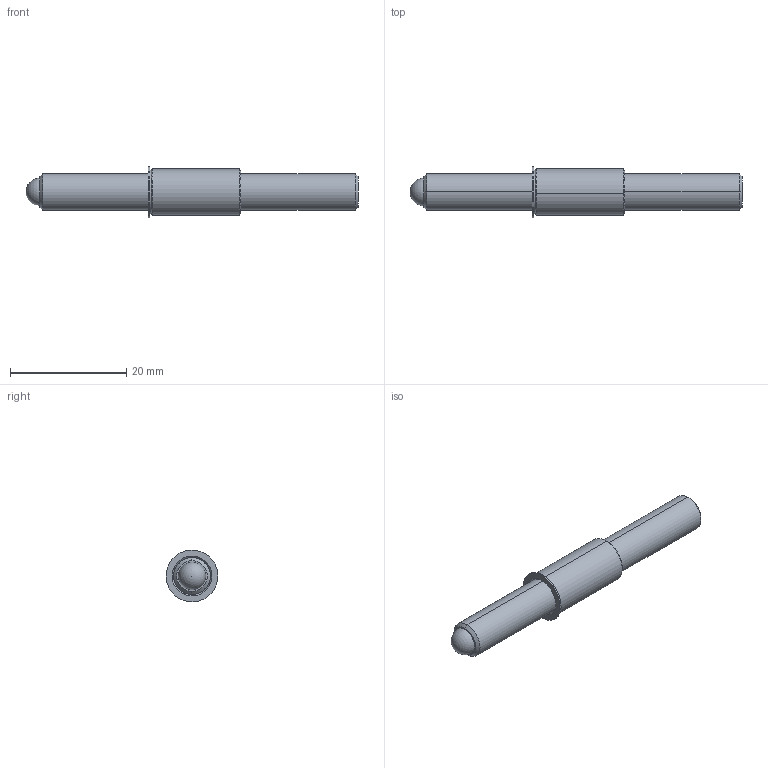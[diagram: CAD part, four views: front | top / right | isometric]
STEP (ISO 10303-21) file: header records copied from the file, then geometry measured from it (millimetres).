
FILE_DESCRIPTION (( 'STEP AP214' ), '1' );
FILE_NAME ('TSB250-80-2250_625-AA.STEP', '2013-03-14T12:58:33', ( 'workpc' ), ( 'Microsoft' ), 'SwSTEP 2.0', 'SolidWorks 2013', '' );
FILE_SCHEMA (( 'AUTOMOTIVE_DESIGN' ));
Length unit declared in the file: inch
Products named in the file (1): TSB250-80-2250_625-AA
Bounding box: 57.15 x 8.93 x 8.93 mm (x, y, z)
Surface area: 1672.7 mm2 (no closed solid volume)
Topology: 0 solids, 3 shells, 33 faces, 77 edges, 49 vertices
Faces by surface type: cone 12, plane 11, cylinder 8, sphere 2
Entity records: 1358 total; most frequent: DIRECTION 174, CARTESIAN_POINT 152, ORIENTED_EDGE 132, EDGE_CURVE 72, AXIS2_PLACEMENT_3D 68, VERTEX_POINT 46, VECTOR 38, EDGE_LOOP 38
